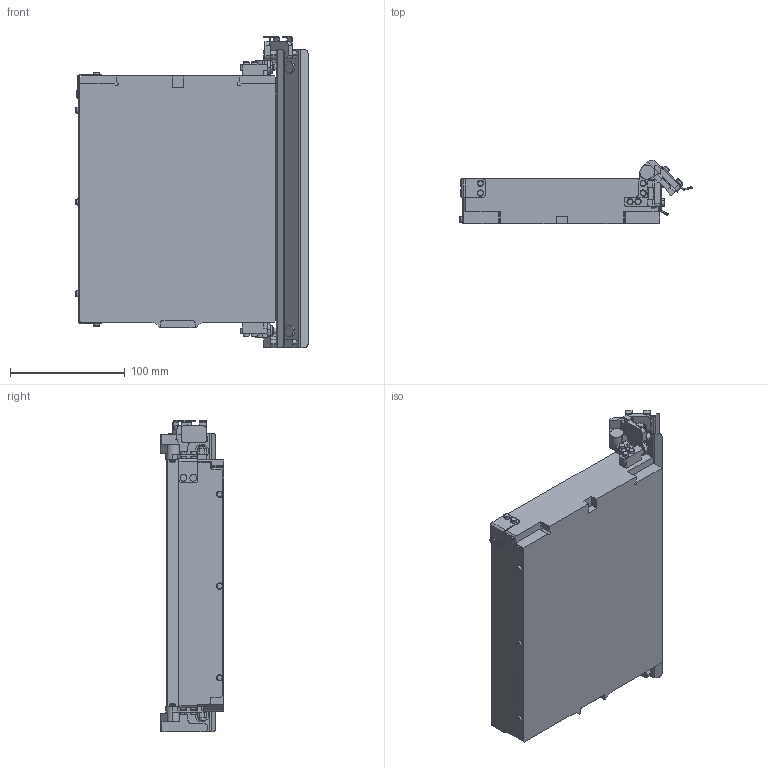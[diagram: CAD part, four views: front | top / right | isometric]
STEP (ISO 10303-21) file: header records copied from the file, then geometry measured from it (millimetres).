
FILE_DESCRIPTION (( 'STEP AP214' ), '1' );
FILE_NAME ('Asyril_PURGE RIGHT PLATE 240_XXX.XXX.XXX_(option).STEP', '2021-07-29T12:11:29', ( '' ), ( '' ), 'SwSTEP 2.0', 'SolidWorks 2017', '' );
FILE_SCHEMA (( 'AUTOMOTIVE_DESIGN' ));
Length unit declared in the file: millimetre
Products named in the file (3): Asyril_PURGE RIGHT PLATE 240_XXX.XXX.XXX_(OPEN); Asyril_PURGE RIGHT PLATE 240_XXX.XXX.XXX_(CLOSED); Asyril_PURGE RIGHT PLATE 240_XXX.XXX.XXX_(option)
Assembly tree (2 placements, depth 2):
  Asyril_PURGE RIGHT PLATE 240_XXX.XXX.XXX_(option)
    Asyril_PURGE RIGHT PLATE 240_XXX.XXX.XXX_(CLOSED)
    Asyril_PURGE RIGHT PLATE 240_XXX.XXX.XXX_(OPEN)
Bounding box: 202.47 x 55.2 x 271.5 mm (x, y, z)
Volume: 1130976.2 mm3; surface area: 278823.2 mm2
Topology: 2 solids, 2 shells, 918 faces, 2272 edges, 1424 vertices
Faces by surface type: plane 456, cylinder 230, cone 116, torus 108, sphere 8
Entity records: 34858 total; most frequent: DIRECTION 5048, CARTESIAN_POINT 4619, ORIENTED_EDGE 4544, EDGE_CURVE 2272, AXIS2_PLACEMENT_3D 1853, VERTEX_POINT 1424, VECTOR 1342, LINE 1342
